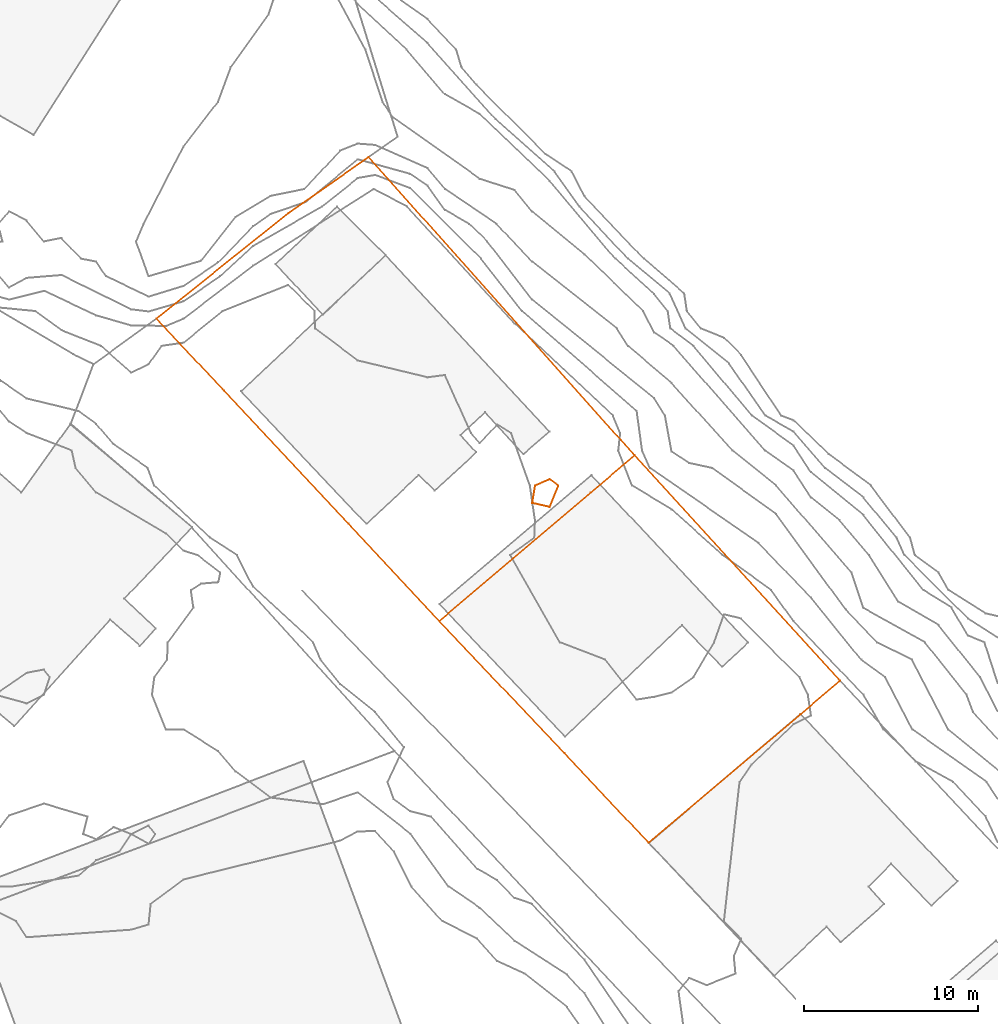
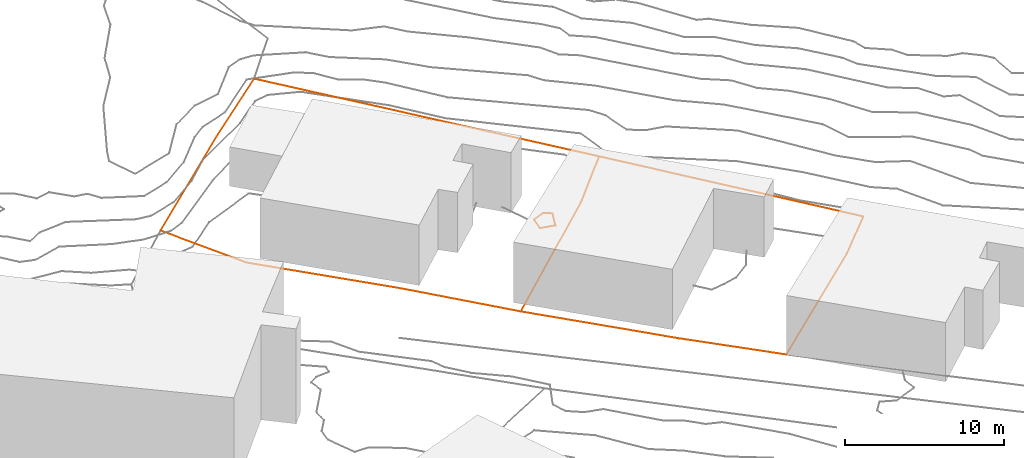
# Not in any storey, part 171 of 419: 3 proxies.
"""IFC2X3 model written with IfcOpenShell, lengths in metres."""

from ifc_helpers import new_model, entity, si_unit, frame, origin_with_axes, place, context, subcontext, project, element, save


model = new_model("IFC2X3")

# Units and contexts
model_context = context("Model", 3, precision=1e-05, world=origin_with_axes())
body_context = subcontext(model_context, "Body", "Model", "MODEL_VIEW")
ifc_project = project(units=[si_unit("AREAUNIT", "SQUARE_METRE"), si_unit("LENGTHUNIT", "METRE")], contexts=[model_context])

# Proxies
proxy_1_placement = place(None, frame((483.7720204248, 115.127690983, 31.5486414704), z_axis=(0.0, 0.0, 1.0), x_axis=(1.0, 0.0, 0.0)))
element("IfcBuildingElementProxy", 1, at=proxy_1_placement, Name="Cadastre 351", ObjectType="NOTDEFINED", context=body_context, shape_type="GeometricCurveSet", body=[
    entity("IfcGeometricCurveSet", [entity("IfcPolyline", [entity("IfcCartesianPoint", [11.2, 9.5, 2.2595325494]), entity("IfcCartesianPoint", [22.99, -3.4199999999, 1.3403147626]), entity("IfcCartesianPoint", [20.6799999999, -5.3799999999, 0.5142988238]), entity("IfcCartesianPoint", [12.01, -12.7200000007, 0.1927583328]), entity("IfcCartesianPoint", [7.1799999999, -7.5900000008, 0.0163343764]), entity("IfcCartesianPoint", [0.0, 0.0, 0.0]), entity("IfcCartesianPoint", [8.6699999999, 7.3499999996, 0.974719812]), entity("IfcCartesianPoint", [11.2, 9.5, 2.2595325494])])]),
])
proxy_2_placement = place(None, frame((467.5520204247, 132.4776909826, 32.9367365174), z_axis=(0.0, 0.0, 1.0), x_axis=(1.0, 0.0, 0.0)))
element("IfcBuildingElementProxy", 2, at=proxy_2_placement, Name="Cadastre 357", ObjectType="NOTDEFINED", context=body_context, shape_type="GeometricCurveSet", body=[
    entity("IfcGeometricCurveSet", [entity("IfcPolyline", [entity("IfcCartesianPoint", [12.17, 9.2599999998, 1.8168595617]), entity("IfcCartesianPoint", [27.42, -7.8499999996, 0.8714375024]), entity("IfcCartesianPoint", [24.89, -10.0, -0.4133752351]), entity("IfcCartesianPoint", [16.2200000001, -17.3499999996, -1.388095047]), entity("IfcCartesianPoint", [11.01, -11.7699999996, -1.2225709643]), entity("IfcCartesianPoint", [3.88, -4.1500000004, -1.3119598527]), entity("IfcCartesianPoint", [0.0, 0.0, 0.0]), entity("IfcCartesianPoint", [7.5700000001, 6.0499999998, 0.9123522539]), entity("IfcCartesianPoint", [12.17, 9.2599999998, 1.8168595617])])]),
])
proxy_3_placement = place(None, frame((489.0920537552, 121.8976909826, 32.0), z_axis=(0.0, 0.0, 1.0), x_axis=(1.0, 0.0, 0.0)))
element("IfcBuildingElementProxy", 3, at=proxy_3_placement, Name="Contour 32.0 m", ObjectType="NOTDEFINED", context=body_context, shape_type="GeometricCurveSet", body=[
    entity("IfcGeometricCurveSet", [entity("IfcPolyline", [entity("IfcCartesianPoint", [0.9999666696, -0.2307760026, 0.0]), entity("IfcCartesianPoint", [1.4999566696, 1.0, 0.0]), entity("IfcCartesianPoint", [0.9999666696, 1.3571389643, 0.0]), entity("IfcCartesianPoint", [0.1666121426, 1.0, 0.0]), entity("IfcCartesianPoint", [0.0, 0.0, 0.0]), entity("IfcCartesianPoint", [0.9999666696, -0.2307760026, 0.0])])]),
])

save(model, "model.ifc")
